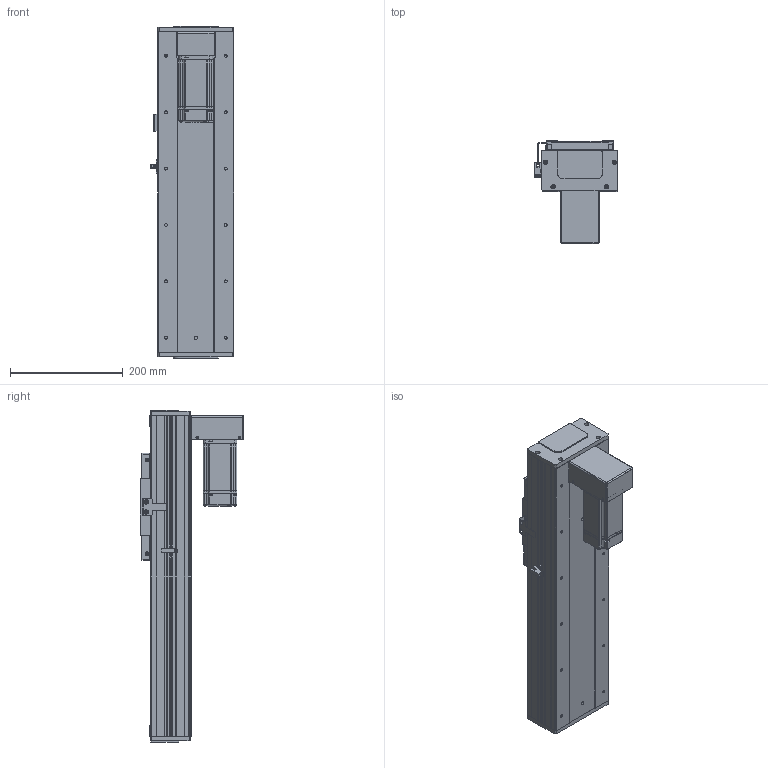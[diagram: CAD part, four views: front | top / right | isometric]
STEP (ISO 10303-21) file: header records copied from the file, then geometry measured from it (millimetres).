
FILE_DESCRIPTION (( 'STEP AP203' ), '1' );
FILE_NAME ('RY140F-L2020-300-BK.SLDASM_300.step', '2021-03-02T08:26:17', ( '盈信电脑' ), ( '东莞市道滘镇水果街19号' ), 'SwSTEP 2.0', 'SolidWorks 2012', '' );
FILE_SCHEMA (( 'CONFIG_CONTROL_DESIGN' ));
Length unit declared in the file: millimetre
Products named in the file (21): RY140F-L2020-300-BK.SLDASM_300; RY140F-直连型材铝滑块(16丝杆); 滅袉蝶18-10; RY140F-狟殏萇儂啣(400W M5); RY140F-狟殏萇儂欶(400W); RY140F-詩湍嘐隅輸; RY140F-672覜茼んえ; 覜茼ん672; 侐源滅袉蝶; RY140F-詩湍揤え; RY140F-后盖板(铝件）; 侂狟400W侜督萇儂; RY100F-詩湍揤踡謫; 15; 藻笠沭; RY140F-直连型材铝滑块连接座; RY140F-滅鳥奻裔; RY140F-詩湍幗謫粣; RY140F-300-BK蛌殏詩湍; RY140F-300-BK倰第奻裔啣; RY140F-300-BK倰第菁釱
Assembly tree (26 placements, depth 3):
  RY140F-L2020-300-BK.SLDASM_300
    RY140F-300-BK倰第菁釱
    RY140F-300-BK倰第奻裔啣  x2
    RY140F-300-BK蛌殏詩湍
    RY140F-直连型材铝滑块连接座
    RY140F-滅鳥奻裔
    RY140F-詩湍幗謫粣
    藻笠沭  x2
    RY100F-詩湍揤踡謫
    RY140F-后盖板(铝件）  x2
    侂狟400W侜督萇儂
      15
    覜茼ん672
    RY140F-672覜茼んえ
    RY140F-詩湍揤え  x2
    侐源滅袉蝶  x2
    RY140F-狟殏萇儂啣(400W M5)
    RY140F-狟殏萇儂欶(400W)
    RY140F-詩湍嘐隅輸
    滅袉蝶18-10  x2
    RY140F-直连型材铝滑块(16丝杆)
Bounding box: 148.7 x 184.5 x 589 mm (x, y, z)
Volume: 2744722.4 mm3; surface area: 961152.5 mm2
Topology: 25 solids, 25 shells, 1948 faces, 5340 edges, 3424 vertices
Faces by surface type: cylinder 935, plane 811, cone 176, bspline 22, torus 4
Entity records: 61564 total; most frequent: CARTESIAN_POINT 13039, DIRECTION 9751, ORIENTED_EDGE 9556, EDGE_CURVE 4778, AXIS2_PLACEMENT_3D 3464, VERTEX_POINT 3128, LINE 2823, VECTOR 2823
